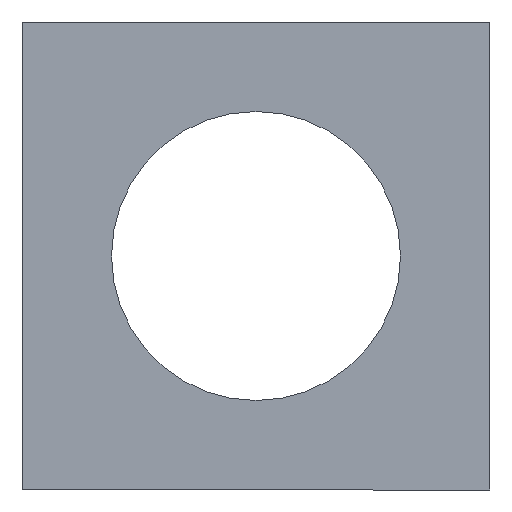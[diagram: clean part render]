
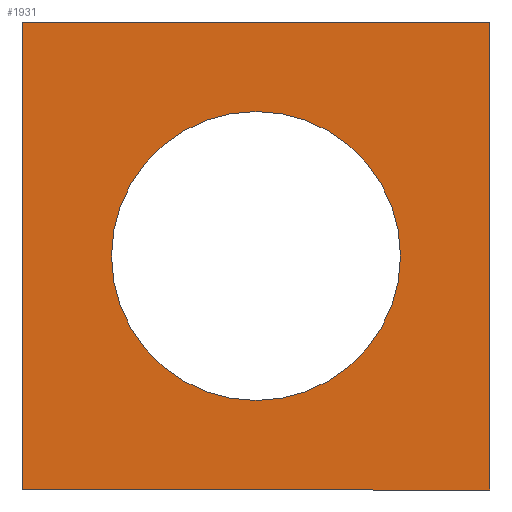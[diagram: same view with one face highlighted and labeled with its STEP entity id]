
A CAD part, front view. The second image highlights one B-rep face of the part: STEP entity #1931.
In plain terms, the highlighted planar face has unit normal (0, -1, 0).
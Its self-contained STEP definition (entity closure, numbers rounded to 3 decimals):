
#11 = ORIENTED_EDGE ( 'NONE', *, *, #3774, .F. ) ;
#51 = EDGE_CURVE ( 'NONE', #2196, #4788, #4730, .T. ) ;
#72 = DIRECTION ( 'NONE',  ( 0., -1., 0. ) ) ;
#114 = ORIENTED_EDGE ( 'NONE', *, *, #448, .F. ) ;
#386 = DIRECTION ( 'NONE',  ( 0., 0., -1. ) ) ;
#406 = DIRECTION ( 'NONE',  ( 1., 0., 0. ) ) ;
#410 = DIRECTION ( 'NONE',  ( 0., 1., 0. ) ) ;
#448 = EDGE_CURVE ( 'NONE', #2625, #553, #2186, .T. ) ;
#553 = VERTEX_POINT ( 'NONE', #1056 ) ;
#623 = VECTOR ( 'NONE', #406, 1000. ) ;
#718 = DIRECTION ( 'NONE',  ( 0., 0., -1. ) ) ;
#783 = CARTESIAN_POINT ( 'NONE',  ( -57.5, 0., 57.5 ) ) ;
#1056 = CARTESIAN_POINT ( 'NONE',  ( 0., 0., 35.5 ) ) ;
#1093 = CARTESIAN_POINT ( 'NONE',  ( 0., 0., 0. ) ) ;
#1163 = PLANE ( 'NONE',  #4320 ) ;
#1212 = LINE ( 'NONE', #4318, #3277 ) ;
#1370 = EDGE_LOOP ( 'NONE', ( #2859, #1420, #3708, #11 ) ) ;
#1420 = ORIENTED_EDGE ( 'NONE', *, *, #4707, .F. ) ;
#1931 = ADVANCED_FACE ( 'NONE', ( #3900, #2807 ), #1163, .F. ) ;
#1963 = EDGE_CURVE ( 'NONE', #4979, #3379, #1212, .T. ) ;
#2001 = CARTESIAN_POINT ( 'NONE',  ( 0., 0., 0. ) ) ;
#2068 = CIRCLE ( 'NONE', #4127, 35.5 ) ;
#2186 = CIRCLE ( 'NONE', #4157, 35.5 ) ;
#2196 = VERTEX_POINT ( 'NONE', #4304 ) ;
#2342 = DIRECTION ( 'NONE',  ( 0., 0., 1. ) ) ;
#2625 = VERTEX_POINT ( 'NONE', #4649 ) ;
#2784 = ORIENTED_EDGE ( 'NONE', *, *, #3624, .F. ) ;
#2798 = VECTOR ( 'NONE', #3905, 1000. ) ;
#2807 = FACE_BOUND ( 'NONE', #4305, .T. ) ;
#2859 = ORIENTED_EDGE ( 'NONE', *, *, #51, .F. ) ;
#2983 = CARTESIAN_POINT ( 'NONE',  ( 57.5, 0., 57.5 ) ) ;
#3067 = CARTESIAN_POINT ( 'NONE',  ( 57.5, 0., -57.5 ) ) ;
#3191 = CARTESIAN_POINT ( 'NONE',  ( 57.5, 0., 57.5 ) ) ;
#3277 = VECTOR ( 'NONE', #386, 1000. ) ;
#3379 = VERTEX_POINT ( 'NONE', #3787 ) ;
#3524 = CARTESIAN_POINT ( 'NONE',  ( 0., 0., 0. ) ) ;
#3561 = CARTESIAN_POINT ( 'NONE',  ( -57.5, 0., 57.5 ) ) ;
#3624 = EDGE_CURVE ( 'NONE', #553, #2625, #2068, .T. ) ;
#3708 = ORIENTED_EDGE ( 'NONE', *, *, #1963, .F. ) ;
#3774 = EDGE_CURVE ( 'NONE', #4788, #4979, #3941, .T. ) ;
#3787 = CARTESIAN_POINT ( 'NONE',  ( 57.5, 0., -57.5 ) ) ;
#3799 = VECTOR ( 'NONE', #3918, 1000. ) ;
#3869 = DIRECTION ( 'NONE',  ( 0., -1., 0. ) ) ;
#3900 = FACE_OUTER_BOUND ( 'NONE', #1370, .T. ) ;
#3905 = DIRECTION ( 'NONE',  ( 0., 0., 1. ) ) ;
#3918 = DIRECTION ( 'NONE',  ( -1., 0., 0. ) ) ;
#3941 = LINE ( 'NONE', #3191, #623 ) ;
#4127 = AXIS2_PLACEMENT_3D ( 'NONE', #1093, #3869, #718 ) ;
#4157 = AXIS2_PLACEMENT_3D ( 'NONE', #2001, #72, #4741 ) ;
#4203 = LINE ( 'NONE', #3067, #3799 ) ;
#4304 = CARTESIAN_POINT ( 'NONE',  ( -57.5, 0., -57.5 ) ) ;
#4305 = EDGE_LOOP ( 'NONE', ( #114, #2784 ) ) ;
#4318 = CARTESIAN_POINT ( 'NONE',  ( 57.5, 0., 57.5 ) ) ;
#4320 = AXIS2_PLACEMENT_3D ( 'NONE', #3524, #410, #2342 ) ;
#4649 = CARTESIAN_POINT ( 'NONE',  ( 0., 0., -35.5 ) ) ;
#4707 = EDGE_CURVE ( 'NONE', #3379, #2196, #4203, .T. ) ;
#4730 = LINE ( 'NONE', #3561, #2798 ) ;
#4741 = DIRECTION ( 'NONE',  ( 0., 0., -1. ) ) ;
#4788 = VERTEX_POINT ( 'NONE', #783 ) ;
#4979 = VERTEX_POINT ( 'NONE', #2983 ) ;
